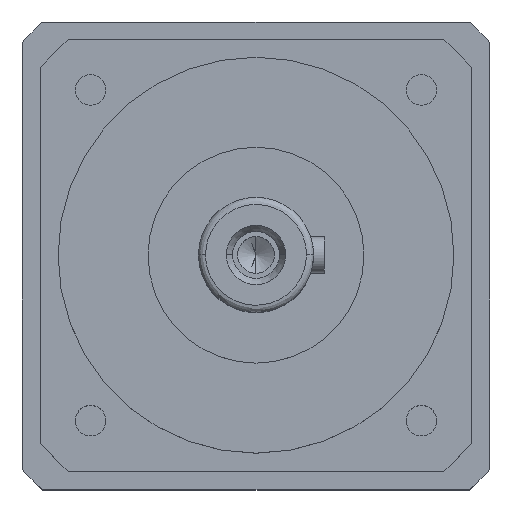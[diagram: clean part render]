
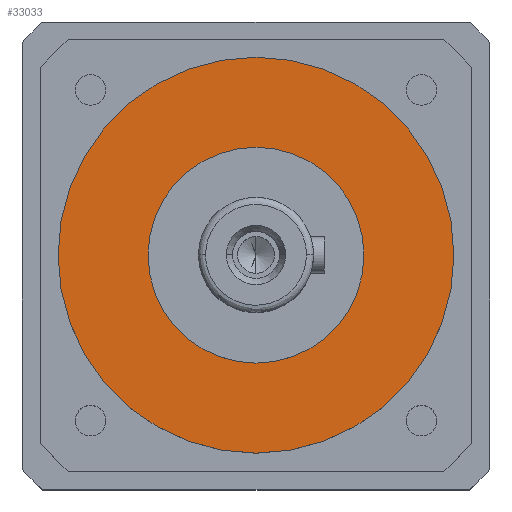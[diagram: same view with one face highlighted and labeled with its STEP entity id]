
A CAD part, top view. The second image highlights one B-rep face of the part: STEP entity #33033.
In plain terms, the highlighted planar face has unit normal (0, 0, 1).
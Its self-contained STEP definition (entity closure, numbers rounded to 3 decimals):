
#217 = CIRCLE ( 'NONE', #31083, 55. ) ;
#1852 = DIRECTION ( 'NONE',  ( 1., 0., 0. ) ) ;
#3050 = DIRECTION ( 'NONE',  ( 1., 0., 0. ) ) ;
#3431 = ORIENTED_EDGE ( 'NONE', *, *, #13751, .F. ) ;
#4877 = CARTESIAN_POINT ( 'NONE',  ( 0., 0., -52. ) ) ;
#5294 = CARTESIAN_POINT ( 'NONE',  ( 55., 0., -52. ) ) ;
#6509 = CIRCLE ( 'NONE', #22417, 55. ) ;
#6573 = DIRECTION ( 'NONE',  ( 0., 0., -1. ) ) ;
#8233 = DIRECTION ( 'NONE',  ( 1., 0., 0. ) ) ;
#8236 = CARTESIAN_POINT ( 'NONE',  ( 0., 30., -52. ) ) ;
#9648 = EDGE_CURVE ( 'NONE', #39043, #12110, #217, .T. ) ;
#9992 = AXIS2_PLACEMENT_3D ( 'NONE', #42732, #23205, #3050 ) ;
#11101 = ORIENTED_EDGE ( 'NONE', *, *, #30159, .F. ) ;
#11623 = DIRECTION ( 'NONE',  ( 0., 0., -1. ) ) ;
#12110 = VERTEX_POINT ( 'NONE', #5294 ) ;
#12585 = EDGE_LOOP ( 'NONE', ( #28352, #3431 ) ) ;
#13751 = EDGE_CURVE ( 'NONE', #33920, #14728, #34812, .T. ) ;
#14728 = VERTEX_POINT ( 'NONE', #22231 ) ;
#17536 = CIRCLE ( 'NONE', #29589, 30. ) ;
#19391 = AXIS2_PLACEMENT_3D ( 'NONE', #8236, #11623, #34772 ) ;
#21066 = FACE_OUTER_BOUND ( 'NONE', #38036, .T. ) ;
#22003 = DIRECTION ( 'NONE',  ( 0., 0., -1. ) ) ;
#22231 = CARTESIAN_POINT ( 'NONE',  ( 30., 0., -52. ) ) ;
#22417 = AXIS2_PLACEMENT_3D ( 'NONE', #26627, #6573, #29908 ) ;
#23205 = DIRECTION ( 'NONE',  ( 0., 0., 1. ) ) ;
#26627 = CARTESIAN_POINT ( 'NONE',  ( 0., 0., -52. ) ) ;
#28271 = DIRECTION ( 'NONE',  ( 0., 0., 1. ) ) ;
#28275 = PLANE ( 'NONE',  #19391 ) ;
#28352 = ORIENTED_EDGE ( 'NONE', *, *, #30789, .F. ) ;
#28785 = FACE_BOUND ( 'NONE', #12585, .T. ) ;
#29589 = AXIS2_PLACEMENT_3D ( 'NONE', #4877, #28271, #8233 ) ;
#29908 = DIRECTION ( 'NONE',  ( 1., 0., 0. ) ) ;
#30159 = EDGE_CURVE ( 'NONE', #12110, #39043, #6509, .T. ) ;
#30789 = EDGE_CURVE ( 'NONE', #14728, #33920, #17536, .T. ) ;
#31083 = AXIS2_PLACEMENT_3D ( 'NONE', #41585, #22003, #1852 ) ;
#32904 = ORIENTED_EDGE ( 'NONE', *, *, #9648, .F. ) ;
#33033 = ADVANCED_FACE ( 'NONE', ( #21066, #28785 ), #28275, .F. ) ;
#33920 = VERTEX_POINT ( 'NONE', #35929 ) ;
#34772 = DIRECTION ( 'NONE',  ( -1., 0., 0. ) ) ;
#34793 = CARTESIAN_POINT ( 'NONE',  ( -55., 0., -52. ) ) ;
#34812 = CIRCLE ( 'NONE', #9992, 30. ) ;
#35929 = CARTESIAN_POINT ( 'NONE',  ( -30., 0., -52. ) ) ;
#38036 = EDGE_LOOP ( 'NONE', ( #11101, #32904 ) ) ;
#39043 = VERTEX_POINT ( 'NONE', #34793 ) ;
#41585 = CARTESIAN_POINT ( 'NONE',  ( 0., 0., -52. ) ) ;
#42732 = CARTESIAN_POINT ( 'NONE',  ( 0., 0., -52. ) ) ;
